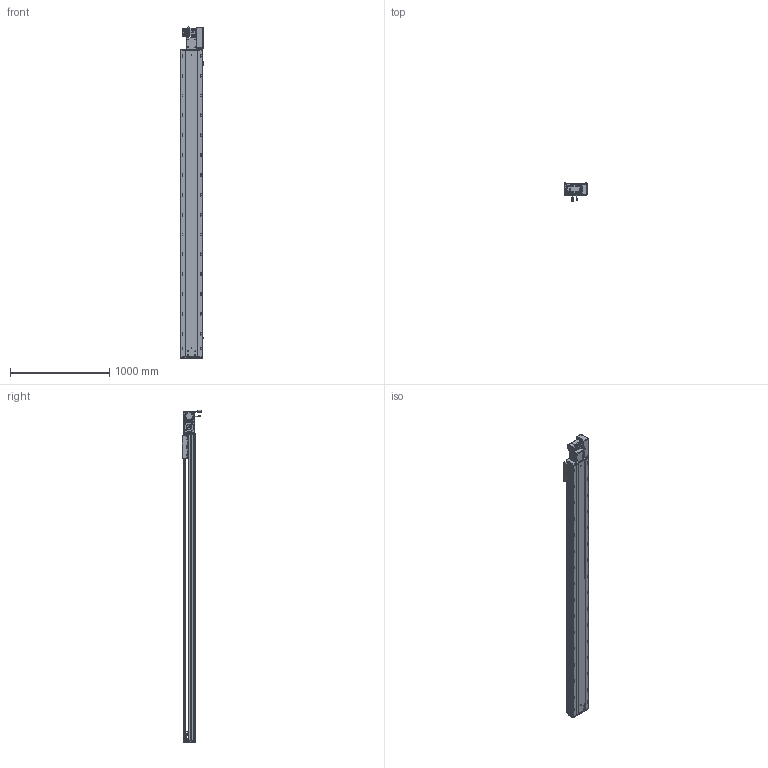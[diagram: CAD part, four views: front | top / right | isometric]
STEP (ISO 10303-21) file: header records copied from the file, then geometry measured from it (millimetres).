
FILE_DESCRIPTION (( 'STEP AP203' ), '1' );
FILE_NAME ('RY220-T-300-RK.SLDASM_2750.step', '2022-07-25T08:25:27', ( '' ), ( '' ), 'SwSTEP 2.0', 'SolidWorks 2016', '' );
FILE_SCHEMA (( 'CONFIG_CONTROL_DESIGN' ));
Length unit declared in the file: millimetre
Products named in the file (14): RY220-T-300-RK.SLDASM_2750; 怢湛750W_ECMA-CX0807ES; 滅袉蝶18-15; RY220-T-湍謫欶(鍼踢); RY220圉猾敕々湍臏賑輸; 110A-T-肮祭謫釱傷裔; RY220-T菁釱-300_2750; RY220-俋离672覜茼んえ; RY220-同步轮副支撑座6304×2; RY220翋肮祭謫裔啣; 覜茼ん672; RY220-T-300-奻裔啣_2750; RY220-T-蛌殏萇儂假蚾啣(750W); RY220翋肮祭謫釱
Assembly tree (18 placements, depth 2):
  RY220-T-300-RK.SLDASM_2750
    RY220-T菁釱-300_2750
    RY220翋肮祭謫釱
    覜茼ん672  x3
    RY220圉猾敕々湍臏賑輸
    RY220-T-300-奻裔啣_2750
    RY220-俋离672覜茼んえ
    滅袉蝶18-15  x3
    RY220翋肮祭謫裔啣  x2
    110A-T-肮祭謫釱傷裔
    怢湛750W_ECMA-CX0807ES
    RY220-T-湍謫欶(鍼踢)
    RY220-T-蛌殏萇儂假蚾啣(750W)
    RY220-同步轮副支撑座6304×2
Bounding box: 238.7 x 198.77 x 3345.24 mm (x, y, z)
Volume: 23585506.5 mm3; surface area: 7271844 mm2
Topology: 19 solids, 19 shells, 2982 faces, 8247 edges, 5168 vertices
Faces by surface type: cylinder 1466, plane 1069, cone 365, bspline 56, sphere 16, torus 10
Entity records: 99411 total; most frequent: CARTESIAN_POINT 28053, ORIENTED_EDGE 14746, DIRECTION 14224, EDGE_CURVE 7373, AXIS2_PLACEMENT_3D 5128, VERTEX_POINT 4792, LINE 3968, VECTOR 3968
